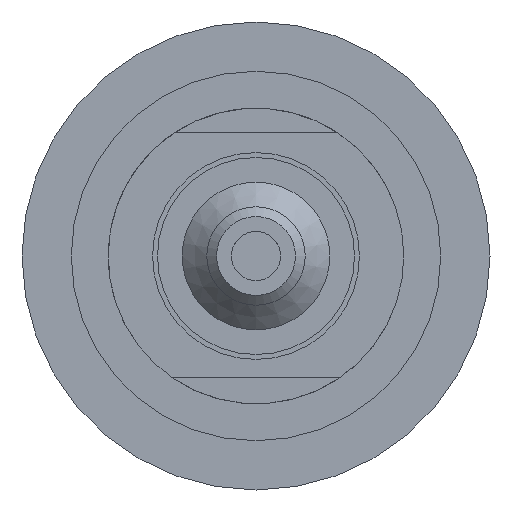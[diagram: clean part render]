
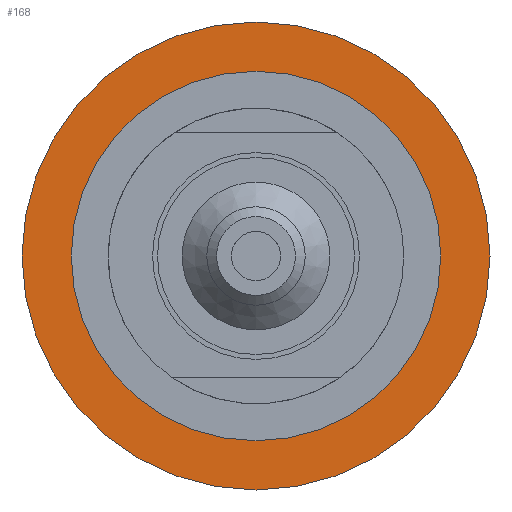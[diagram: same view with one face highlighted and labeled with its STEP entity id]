
A CAD part, front view. The second image highlights one B-rep face of the part: STEP entity #168.
In plain terms, the highlighted planar face has unit normal (0, -1, 0).
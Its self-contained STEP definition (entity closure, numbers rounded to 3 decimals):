
#106=PLANE('',#1096);
#168=ADVANCED_FACE('',(#332,#333),#106,.F.);
#332=FACE_BOUND('',#479,.T.);
#333=FACE_BOUND('',#480,.T.);
#479=EDGE_LOOP('',(#642));
#480=EDGE_LOOP('',(#643));
#642=ORIENTED_EDGE('',*,*,#883,.T.);
#643=ORIENTED_EDGE('',*,*,#881,.F.);
#791=VERTEX_POINT('',#1739);
#793=VERTEX_POINT('',#1744);
#881=EDGE_CURVE('',#791,#791,#971,.T.);
#883=EDGE_CURVE('',#793,#793,#973,.T.);
#971=CIRCLE('',#1092,4.75);
#973=CIRCLE('',#1095,3.75);
#1092=AXIS2_PLACEMENT_3D('',#1738,#1343,#1344);
#1095=AXIS2_PLACEMENT_3D('',#1743,#1349,#1350);
#1096=AXIS2_PLACEMENT_3D('',#1745,#1351,#1352);
#1343=DIRECTION('',(0.,1.,0.));
#1344=DIRECTION('',(1.,0.,0.));
#1349=DIRECTION('',(0.,1.,0.));
#1350=DIRECTION('',(1.,0.,0.));
#1351=DIRECTION('',(0.,1.,0.));
#1352=DIRECTION('',(0.,0.,1.));
#1738=CARTESIAN_POINT('',(-103.953,-62.749,48.2));
#1739=CARTESIAN_POINT('',(-99.203,-62.749,48.2));
#1743=CARTESIAN_POINT('',(-103.953,-62.749,48.2));
#1744=CARTESIAN_POINT('',(-100.203,-62.749,48.2));
#1745=CARTESIAN_POINT('',(-103.953,-62.749,48.2));
